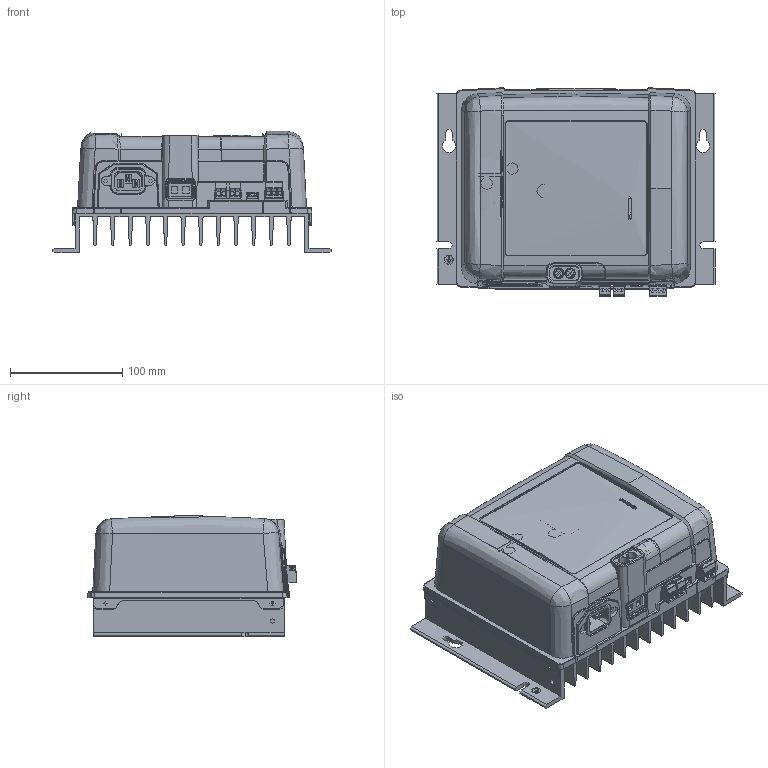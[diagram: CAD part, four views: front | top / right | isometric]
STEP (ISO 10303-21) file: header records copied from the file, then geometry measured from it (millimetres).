
FILE_DESCRIPTION (( 'STEP AP214' ), '1' );
FILE_NAME ('DimensionDrawing Phoenix Smart IP43 charger 120-240V-rev01(SO)-3D.STEP', '2023-04-17T09:31:12', ( '' ), ( '' ), 'SwSTEP 2.0', 'SolidWorks 2022', '' );
FILE_SCHEMA (( 'AUTOMOTIVE_DESIGN' ));
Length unit declared in the file: millimetre
Products named in the file (30): MSTB 2,5_3_ST_1754465 + MSTB 2,5_ 3_G_1754452 (Phoenix Contact)_RGB8421504; LU 10.16_02_90 4.5SN GY BX_1648310000-3; J9; J7; J8; Board-Part-1; LU 10.16_02_90 4.5SN GY BX_1648310000-4; LU 10.16_02_90 4.5SN GY BX_1648310000-2; Phoenix Smart IP43 Charger_Heatsink_23.04.17; LU 10.16_02_90 4.5SN GY BX_1648310000-5; LU 10.16_02_90 4.5SN GY BX_1648310000; phoenix_smart_charger-IP43(SO); J10; J9-subassembly-1; DimensionDrawing Phoenix Smart IP43 charger 120-240V-rev01(SO)-3D; LU 10.16_02_90 4.5SN GY BX_1648310000-1; Admi27C43BACqs2l; MSTB 2,5_2_ST_1754449 + MSTB 2,5_ 2_G_1754436 (Phoenix Contact)_RGB8421504-1; px0580-pc; S4B-PH-K-S; J5-subassembly-1; Phoenix Smart IP43 Charger Enclosure Alu_20.03.05; J7-subassembly-1; MSTB 2,5_2_ST_1754449 + MSTB 2,5_ 2_G_1754436 (Phoenix Contact)_RGB8421504; J5; Board-2; J8-subassembly-1; LU 10.16_02_90 4.5SN GY BX_1648310000-6; J1-1; MSTB 2,5_3_ST_1754465 + MSTB 2,5_ 3_G_1754452 (Phoenix Contact)_RGB8421504-1
Assembly tree (31 placements, depth 5):
  DimensionDrawing Phoenix Smart IP43 charger 120-240V-rev01(SO)-3D
    Phoenix Smart IP43 Charger Enclosure Alu_20.03.05
    Phoenix Smart IP43 Charger_Heatsink_23.04.17
    Admi27C43BACqs2l
    phoenix_smart_charger-IP43(SO)
      J5
        J5-subassembly-1
          LU 10.16_02_90 4.5SN GY BX_1648310000
          LU 10.16_02_90 4.5SN GY BX_1648310000-1
          LU 10.16_02_90 4.5SN GY BX_1648310000-2
          LU 10.16_02_90 4.5SN GY BX_1648310000-3
          LU 10.16_02_90 4.5SN GY BX_1648310000-4
          LU 10.16_02_90 4.5SN GY BX_1648310000-5
          LU 10.16_02_90 4.5SN GY BX_1648310000-6
      J7
        J7-subassembly-1
          MSTB 2,5_3_ST_1754465 + MSTB 2,5_ 3_G_1754452 (Phoenix Contact)_RGB8421504
          MSTB 2,5_3_ST_1754465 + MSTB 2,5_ 3_G_1754452 (Phoenix Contact)_RGB8421504-1
      J8
        J8-subassembly-1
          MSTB 2,5_2_ST_1754449 + MSTB 2,5_ 2_G_1754436 (Phoenix Contact)_RGB8421504
          MSTB 2,5_2_ST_1754449 + MSTB 2,5_ 2_G_1754436 (Phoenix Contact)_RGB8421504-1
      J9
        J9-subassembly-1
          MSTB 2,5_2_ST_1754449 + MSTB 2,5_ 2_G_1754436 (Phoenix Contact)_RGB8421504
          MSTB 2,5_2_ST_1754449 + MSTB 2,5_ 2_G_1754436 (Phoenix Contact)_RGB8421504-1
      J1-1
        px0580-pc
      J10
        S4B-PH-K-S
      Board-2
        Board-Part-1
Bounding box: 247.96 x 185.78 x 108 mm (x, y, z)
Volume: 748801.2 mm3; surface area: 502029.7 mm2
Topology: 25 solids, 26 shells, 4596 faces, 12308 edges, 7833 vertices
Faces by surface type: cylinder 1899, plane 1736, bspline 839, cone 114, torus 8
Entity records: 194975 total; most frequent: CARTESIAN_POINT 88893, ORIENTED_EDGE 22980, DIRECTION 19936, EDGE_CURVE 11490, VERTEX_POINT 7343, AXIS2_PLACEMENT_3D 7165, LINE 5606, VECTOR 5606
